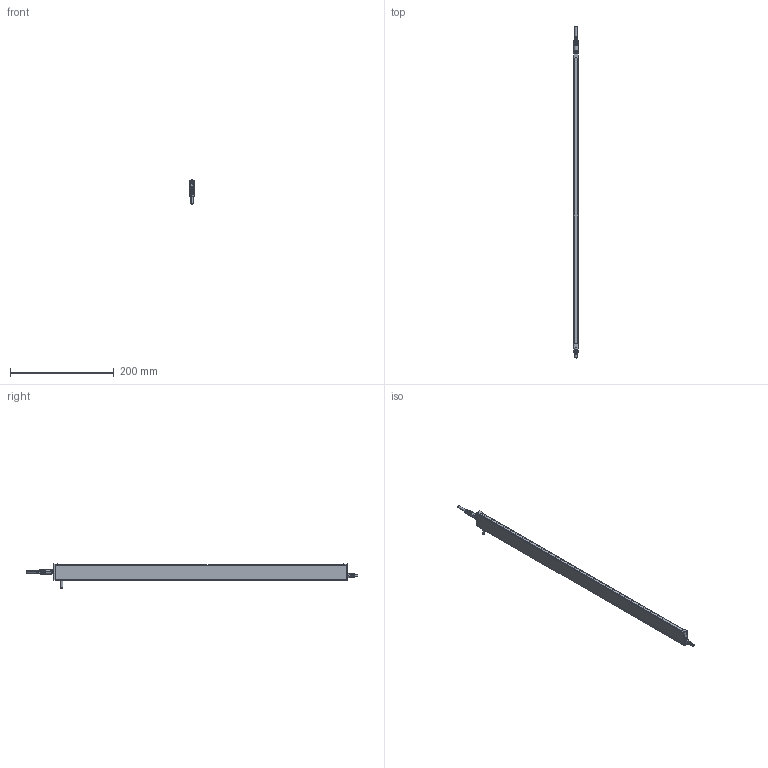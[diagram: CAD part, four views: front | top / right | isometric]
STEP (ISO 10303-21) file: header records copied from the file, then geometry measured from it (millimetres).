
FILE_DESCRIPTION (( 'STEP AP214' ), '1' );
FILE_NAME ('ILG-B-K2-0560mm.STEP', '2017-07-10T12:38:59', ( '' ), ( '' ), 'SwSTEP 2.0', 'SolidWorks 2016', '' );
FILE_SCHEMA (( 'AUTOMOTIVE_DESIGN' ));
Length unit declared in the file: millimetre
Products named in the file (1): ILG-B-K2-0560mm
Bounding box: 9 x 638.5 x 46.21 mm (x, y, z)
Surface area: 98092.4 mm2 (no closed solid volume)
Topology: 0 solids, 14 shells, 693 faces, 1806 edges, 1147 vertices
Faces by surface type: cylinder 283, plane 263, cone 97, bspline 32, torus 18
Entity records: 31061 total; most frequent: CARTESIAN_POINT 6596, ORIENTED_EDGE 3565, DIRECTION 3444, EDGE_CURVE 1790, AXIS2_PLACEMENT_3D 1323, VERTEX_POINT 1147, VECTOR 798, LINE 798
